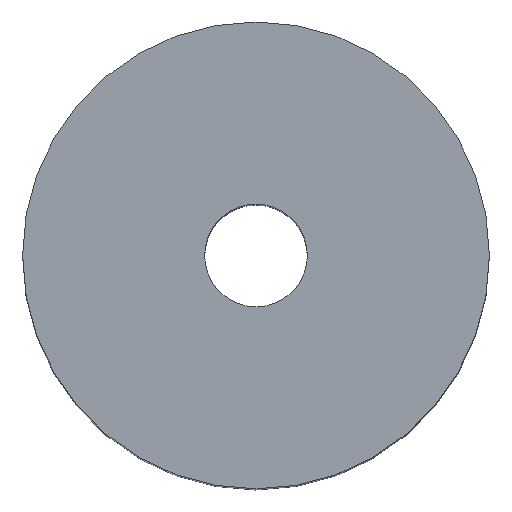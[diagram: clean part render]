
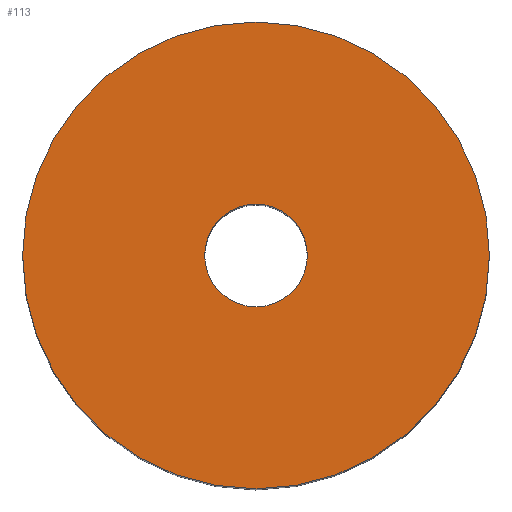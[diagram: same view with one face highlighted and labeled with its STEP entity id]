
A CAD part, top view. The second image highlights one B-rep face of the part: STEP entity #113.
In plain terms, the highlighted planar face has unit normal (0, 0, 1).
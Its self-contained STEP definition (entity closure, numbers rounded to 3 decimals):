
#113=ADVANCED_FACE('',(#121,#122),#119,.T.);
#119=PLANE('',#190);
#121=FACE_BOUND('',#125,.T.);
#122=FACE_BOUND('',#126,.T.);
#125=EDGE_LOOP('',(#133,#134));
#126=EDGE_LOOP('',(#135,#136));
#133=ORIENTED_EDGE('',*,*,#165,.T.);
#134=ORIENTED_EDGE('',*,*,#166,.T.);
#135=ORIENTED_EDGE('',*,*,#167,.F.);
#136=ORIENTED_EDGE('',*,*,#168,.F.);
#157=VERTEX_POINT('',#236);
#158=VERTEX_POINT('',#237);
#159=VERTEX_POINT('',#240);
#160=VERTEX_POINT('',#241);
#165=EDGE_CURVE('',#157,#158,#177,.T.);
#166=EDGE_CURVE('',#158,#157,#178,.T.);
#167=EDGE_CURVE('',#159,#160,#179,.T.);
#168=EDGE_CURVE('',#160,#159,#180,.T.);
#177=CIRCLE('',#186,50.);
#178=CIRCLE('',#187,50.);
#179=CIRCLE('',#188,11.);
#180=CIRCLE('',#189,11.);
#186=AXIS2_PLACEMENT_3D('',#235,#202,#203);
#187=AXIS2_PLACEMENT_3D('',#238,#204,#205);
#188=AXIS2_PLACEMENT_3D('',#239,#206,#207);
#189=AXIS2_PLACEMENT_3D('',#242,#208,#209);
#190=AXIS2_PLACEMENT_3D('',#243,#210,#211);
#202=DIRECTION('',(0.,0.,1.));
#203=DIRECTION('',(0.,1.,0.));
#204=DIRECTION('',(0.,0.,1.));
#205=DIRECTION('',(0.,-1.,0.));
#206=DIRECTION('',(0.,0.,1.));
#207=DIRECTION('',(0.,-1.,0.));
#208=DIRECTION('',(0.,0.,1.));
#209=DIRECTION('',(0.,1.,0.));
#210=DIRECTION('',(0.,0.,1.));
#211=DIRECTION('',(0.,1.,0.));
#235=CARTESIAN_POINT('',(0.,0.,140.));
#236=CARTESIAN_POINT('',(-50.,0.,140.));
#237=CARTESIAN_POINT('',(50.,0.,140.));
#238=CARTESIAN_POINT('',(0.,0.,140.));
#239=CARTESIAN_POINT('',(0.,0.,140.));
#240=CARTESIAN_POINT('',(11.,0.,140.));
#241=CARTESIAN_POINT('',(-11.,0.,140.));
#242=CARTESIAN_POINT('',(0.,0.,140.));
#243=CARTESIAN_POINT('',(0.,0.,140.));
